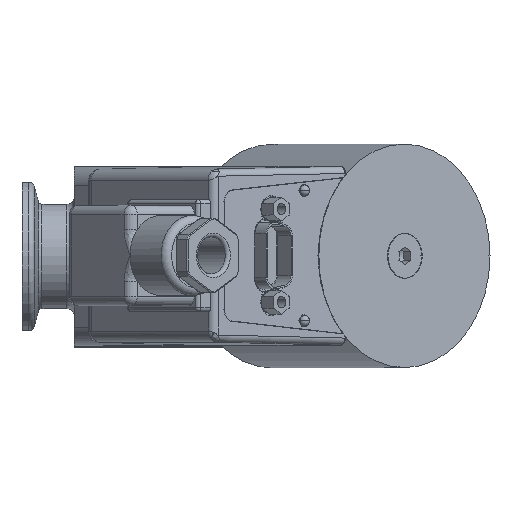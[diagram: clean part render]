
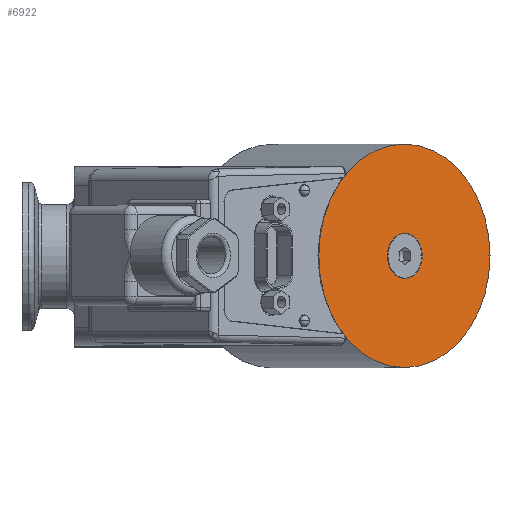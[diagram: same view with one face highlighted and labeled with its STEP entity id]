
A CAD part, top view. The second image highlights one B-rep face of the part: STEP entity #6922.
In plain terms, the highlighted planar face has unit normal (0.643, 0, 0.766) as drawn and (1, 0, 0) by its records, which use the part's own axes.
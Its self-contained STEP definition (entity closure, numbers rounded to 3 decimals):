
#6922=ADVANCED_FACE('',(#7994,#7995),#7618,.F.);
#7618=PLANE('',#18610);
#7994=FACE_BOUND('',#8811,.T.);
#7995=FACE_BOUND('',#8812,.T.);
#8811=EDGE_LOOP('',(#11603,#11604));
#8812=EDGE_LOOP('',(#11605,#11606));
#11603=ORIENTED_EDGE('',*,*,#16131,.F.);
#11604=ORIENTED_EDGE('',*,*,#16159,.T.);
#11605=ORIENTED_EDGE('',*,*,#16162,.F.);
#11606=ORIENTED_EDGE('',*,*,#16163,.T.);
#14351=VERTEX_POINT('',#27723);
#14352=VERTEX_POINT('',#27725);
#14374=VERTEX_POINT('',#28116);
#14375=VERTEX_POINT('',#28117);
#16131=EDGE_CURVE('',#14351,#14352,#17496,.T.);
#16159=EDGE_CURVE('',#14351,#14352,#17499,.T.);
#16162=EDGE_CURVE('',#14374,#14375,#17500,.T.);
#16163=EDGE_CURVE('',#14374,#14375,#17501,.T.);
#17496=CIRCLE('',#18599,30.);
#17499=CIRCLE('',#18606,30.);
#17500=CIRCLE('',#18608,6.);
#17501=CIRCLE('',#18609,6.);
#18599=AXIS2_PLACEMENT_3D('',#27724,#21579,#21580);
#18606=AXIS2_PLACEMENT_3D('',#28049,#21605,#21606);
#18608=AXIS2_PLACEMENT_3D('',#28115,#21609,#21610);
#18609=AXIS2_PLACEMENT_3D('',#28118,#21611,#21612);
#18610=AXIS2_PLACEMENT_3D('',#28119,#21613,#21614);
#21579=DIRECTION('',(-1.,0.,0.));
#21580=DIRECTION('',(0.,0.,-1.));
#21605=DIRECTION('',(1.,0.,0.));
#21606=DIRECTION('',(0.,0.,-1.));
#21609=DIRECTION('',(1.,0.,0.));
#21610=DIRECTION('',(0.,0.,-1.));
#21611=DIRECTION('',(-1.,0.,0.));
#21612=DIRECTION('',(0.,0.,-1.));
#21613=DIRECTION('',(-1.,0.,0.));
#21614=DIRECTION('',(0.,0.,1.));
#27723=CARTESIAN_POINT('',(55.3,0.,-30.));
#27724=CARTESIAN_POINT('',(55.3,0.,0.));
#27725=CARTESIAN_POINT('',(55.3,0.,30.));
#28049=CARTESIAN_POINT('',(55.3,0.,0.));
#28115=CARTESIAN_POINT('',(55.3,0.,0.));
#28116=CARTESIAN_POINT('',(55.3,0.,-6.));
#28117=CARTESIAN_POINT('',(55.3,0.,6.));
#28118=CARTESIAN_POINT('',(55.3,0.,0.));
#28119=CARTESIAN_POINT('',(55.3,0.,0.));
